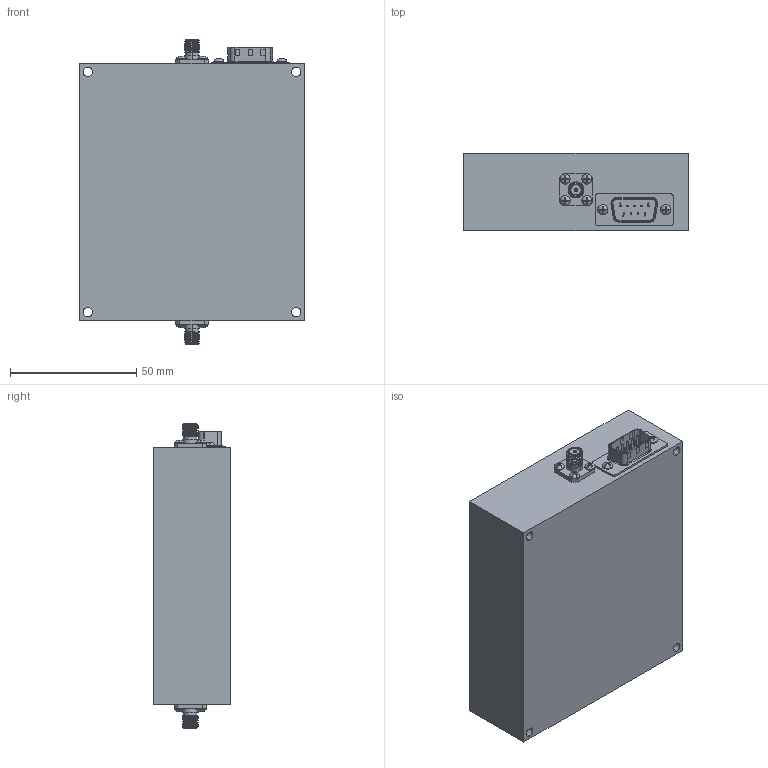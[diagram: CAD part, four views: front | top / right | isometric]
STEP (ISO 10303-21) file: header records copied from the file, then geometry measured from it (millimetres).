
FILE_DESCRIPTION (( 'STEP AP214' ), '1' );
FILE_NAME ('SFB-218-SP6DR-HPM.STEP', '2016-03-07T18:03:39', ( 'PMI' ), ( 'Microsoft' ), 'SwSTEP 2.0', 'SolidWorks 2014', '' );
FILE_SCHEMA (( 'AUTOMOTIVE_DESIGN' ));
Length unit declared in the file: inch
Products named in the file (5): SFB-218-SP6DR-HPM; 2-56Rough; SMA 4 Flange Connector_Valor predeterminado; 172-009-102; SFB
Assembly tree (14 placements, depth 2):
  SFB-218-SP6DR-HPM
    SFB
    172-009-102
    SMA 4 Flange Connector_Valor predeterminado  x2
    2-56Rough  x10
Bounding box: 88.9 x 30.48 x 120.6 mm (x, y, z)
Volume: 276864.1 mm3; surface area: 36707.1 mm2
Topology: 24 solids, 24 shells, 784 faces, 1915 edges, 1234 vertices
Faces by surface type: plane 353, cylinder 305, bspline 90, torus 28, cone 8
Entity records: 21759 total; most frequent: CARTESIAN_POINT 7824, ORIENTED_EDGE 2470, DIRECTION 2092, EDGE_CURVE 1235, VERTEX_POINT 790, AXIS2_PLACEMENT_3D 733, LINE 626, VECTOR 626
